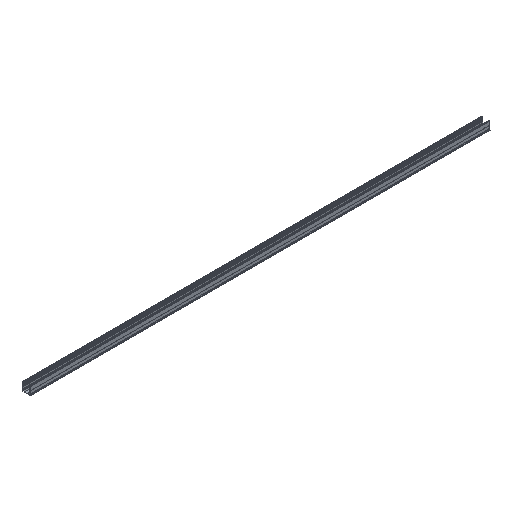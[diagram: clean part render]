
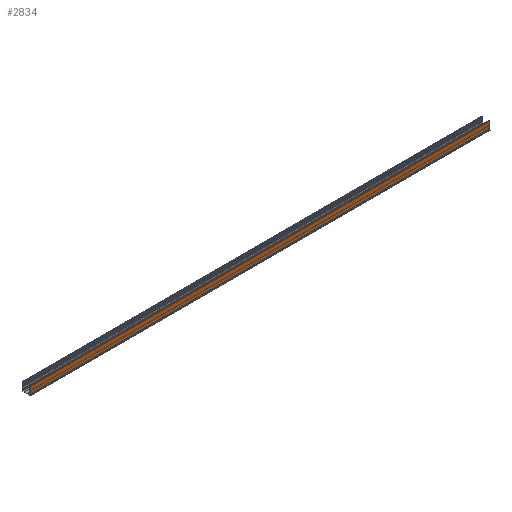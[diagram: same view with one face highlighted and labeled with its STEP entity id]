
A CAD part, isometric view. The second image highlights one B-rep face of the part: STEP entity #2834.
In plain terms, the highlighted planar face has unit normal (0, -1, 0).
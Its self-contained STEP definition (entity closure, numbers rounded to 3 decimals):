
#317=FACE_OUTER_BOUND('',#472,.T.);
#472=EDGE_LOOP('',(#2063,#2064,#2065,#2066));
#689=LINE('',#3990,#962);
#690=LINE('',#3993,#963);
#691=LINE('',#3995,#964);
#692=LINE('',#3996,#965);
#962=VECTOR('',#3395,10.);
#963=VECTOR('',#3398,10.);
#964=VECTOR('',#3399,10.);
#965=VECTOR('',#3400,10.);
#1220=VERTEX_POINT('',#3986);
#1221=VERTEX_POINT('',#3988);
#1222=VERTEX_POINT('',#3992);
#1223=VERTEX_POINT('',#3994);
#1561=EDGE_CURVE('',#1220,#1221,#689,.T.);
#1562=EDGE_CURVE('',#1220,#1222,#690,.T.);
#1563=EDGE_CURVE('',#1223,#1221,#691,.T.);
#1564=EDGE_CURVE('',#1222,#1223,#692,.T.);
#2063=ORIENTED_EDGE('',*,*,#1562,.F.);
#2064=ORIENTED_EDGE('',*,*,#1561,.T.);
#2065=ORIENTED_EDGE('',*,*,#1563,.F.);
#2066=ORIENTED_EDGE('',*,*,#1564,.F.);
#2746=PLANE('',#3037);
#2834=ADVANCED_FACE('',(#317),#2746,.T.);
#3037=AXIS2_PLACEMENT_3D('',#3991,#3396,#3397);
#3395=DIRECTION('',(1.,0.,0.));
#3396=DIRECTION('center_axis',(0.,-1.,0.));
#3397=DIRECTION('ref_axis',(0.,0.,-1.));
#3398=DIRECTION('',(0.,0.,1.));
#3399=DIRECTION('',(0.,0.,-1.));
#3400=DIRECTION('',(1.,0.,0.));
#3986=CARTESIAN_POINT('',(0.,-9.178,0.3));
#3988=CARTESIAN_POINT('',(1000.,-9.178,0.3));
#3990=CARTESIAN_POINT('',(0.,-9.178,0.3));
#3991=CARTESIAN_POINT('Origin',(0.,-9.178,17.396));
#3992=CARTESIAN_POINT('',(0.,-9.178,17.396));
#3993=CARTESIAN_POINT('',(0.,-9.178,0.3));
#3994=CARTESIAN_POINT('',(1000.,-9.178,17.396));
#3995=CARTESIAN_POINT('',(1000.,-9.178,0.3));
#3996=CARTESIAN_POINT('',(0.,-9.178,17.396));
